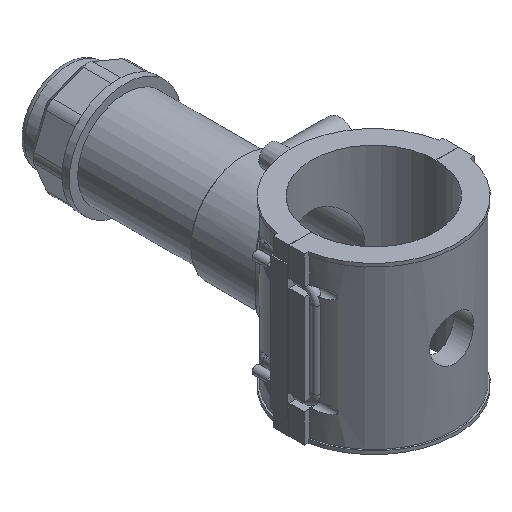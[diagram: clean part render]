
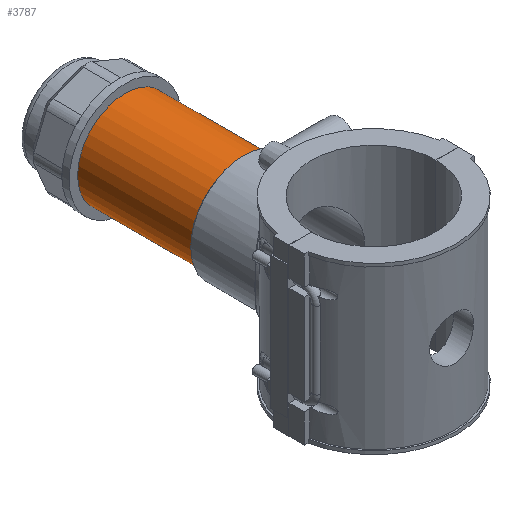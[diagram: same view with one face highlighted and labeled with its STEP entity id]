
A CAD part, isometric view. The second image highlights one B-rep face of the part: STEP entity #3787.
In plain terms, the highlighted cylindrical face has radius 33.928 mm (diameter 67.856 mm), a full revolution.
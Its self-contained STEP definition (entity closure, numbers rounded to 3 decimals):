
#53=FACE_BOUND('',#560,.T.);
#82=B_SPLINE_CURVE_WITH_KNOTS('',3,(#5587,#5588,#5589,#5590,#5591,#5592,
#5593,#5594,#5595,#5596),.UNSPECIFIED.,.F.,.F.,(4,2,2,2,4),(0.,0.402,
0.805,1.207,1.609),.UNSPECIFIED.);
#83=B_SPLINE_CURVE_WITH_KNOTS('',3,(#5597,#5598,#5599,#5600,#5601,#5602,
#5603,#5604,#5605,#5606,#5607,#5608,#5609,#5610,#5611,#5612,#5613,#5614,
#5615,#5616,#5617,#5618,#5619,#5620,#5621,#5622),.UNSPECIFIED.,.F.,.F.,
(4,2,2,2,2,2,2,2,2,2,2,2,4),(1.609,2.011,2.413,
2.815,3.218,3.62,4.022,4.424,
4.827,5.229,5.631,6.033,6.435),
 .UNSPECIFIED.);
#344=FACE_OUTER_BOUND('',#559,.T.);
#559=EDGE_LOOP('',(#2788,#2789,#2790,#2791,#2792,#2793));
#560=EDGE_LOOP('',(#2794,#2795));
#779=CIRCLE('',#4052,33.928);
#780=CIRCLE('',#4053,33.928);
#793=CIRCLE('',#4080,33.928);
#794=CIRCLE('',#4081,33.928);
#956=LINE('',#5872,#1297);
#1297=VECTOR('',#4630,33.928);
#1582=VERTEX_POINT('',#5584);
#1583=VERTEX_POINT('',#5586);
#1645=VERTEX_POINT('',#5813);
#1646=VERTEX_POINT('',#5814);
#1660=VERTEX_POINT('',#5868);
#1661=VERTEX_POINT('',#5869);
#1960=EDGE_CURVE('',#1583,#1582,#82,.T.);
#1961=EDGE_CURVE('',#1582,#1583,#83,.T.);
#2056=EDGE_CURVE('',#1645,#1646,#779,.T.);
#2057=EDGE_CURVE('',#1646,#1645,#780,.T.);
#2082=EDGE_CURVE('',#1660,#1661,#793,.T.);
#2083=EDGE_CURVE('',#1661,#1660,#794,.T.);
#2084=EDGE_CURVE('',#1661,#1646,#956,.T.);
#2788=ORIENTED_EDGE('',*,*,#2082,.F.);
#2789=ORIENTED_EDGE('',*,*,#2083,.F.);
#2790=ORIENTED_EDGE('',*,*,#2084,.T.);
#2791=ORIENTED_EDGE('',*,*,#2057,.T.);
#2792=ORIENTED_EDGE('',*,*,#2056,.T.);
#2793=ORIENTED_EDGE('',*,*,#2084,.F.);
#2794=ORIENTED_EDGE('',*,*,#1960,.T.);
#2795=ORIENTED_EDGE('',*,*,#1961,.T.);
#3691=CYLINDRICAL_SURFACE('',#4079,33.928);
#3787=ADVANCED_FACE('',(#344,#53),#3691,.T.);
#4052=AXIS2_PLACEMENT_3D('',#5815,#4558,#4559);
#4053=AXIS2_PLACEMENT_3D('',#5816,#4560,#4561);
#4079=AXIS2_PLACEMENT_3D('',#5867,#4624,#4625);
#4080=AXIS2_PLACEMENT_3D('',#5870,#4626,#4627);
#4081=AXIS2_PLACEMENT_3D('',#5871,#4628,#4629);
#4558=DIRECTION('center_axis',(0.,1.,0.));
#4559=DIRECTION('ref_axis',(1.,0.,0.));
#4560=DIRECTION('center_axis',(0.,1.,0.));
#4561=DIRECTION('ref_axis',(1.,0.,0.));
#4624=DIRECTION('center_axis',(0.,1.,0.));
#4625=DIRECTION('ref_axis',(0.,0.,1.));
#4626=DIRECTION('center_axis',(0.,1.,0.));
#4627=DIRECTION('ref_axis',(1.,0.,0.));
#4628=DIRECTION('center_axis',(0.,1.,0.));
#4629=DIRECTION('ref_axis',(1.,0.,0.));
#4630=DIRECTION('',(0.,-1.,0.));
#5584=CARTESIAN_POINT('',(33.928,98.774,0.));
#5586=CARTESIAN_POINT('',(32.229,109.374,-10.6));
#5587=CARTESIAN_POINT('Ctrl Pts',(32.229,109.374,-10.6));
#5588=CARTESIAN_POINT('Ctrl Pts',(32.229,108.033,-10.6));
#5589=CARTESIAN_POINT('Ctrl Pts',(32.322,106.609,-10.33));
#5590=CARTESIAN_POINT('Ctrl Pts',(32.649,104.001,-9.246));
#5591=CARTESIAN_POINT('Ctrl Pts',(32.877,102.815,-8.432));
#5592=CARTESIAN_POINT('Ctrl Pts',(33.301,100.943,-6.559));
#5593=CARTESIAN_POINT('Ctrl Pts',(33.525,100.128,-5.373));
#5594=CARTESIAN_POINT('Ctrl Pts',(33.84,99.044,-2.764));
#5595=CARTESIAN_POINT('Ctrl Pts',(33.928,98.774,-1.34));
#5596=CARTESIAN_POINT('Ctrl Pts',(33.928,98.774,0.));
#5597=CARTESIAN_POINT('Ctrl Pts',(33.928,98.774,0.));
#5598=CARTESIAN_POINT('Ctrl Pts',(33.928,98.774,1.34));
#5599=CARTESIAN_POINT('Ctrl Pts',(33.84,99.044,2.764));
#5600=CARTESIAN_POINT('Ctrl Pts',(33.525,100.128,5.373));
#5601=CARTESIAN_POINT('Ctrl Pts',(33.301,100.943,6.559));
#5602=CARTESIAN_POINT('Ctrl Pts',(32.877,102.815,8.432));
#5603=CARTESIAN_POINT('Ctrl Pts',(32.649,104.001,9.246));
#5604=CARTESIAN_POINT('Ctrl Pts',(32.322,106.609,10.33));
#5605=CARTESIAN_POINT('Ctrl Pts',(32.229,108.033,10.6));
#5606=CARTESIAN_POINT('Ctrl Pts',(32.229,110.715,10.6));
#5607=CARTESIAN_POINT('Ctrl Pts',(32.322,112.139,10.33));
#5608=CARTESIAN_POINT('Ctrl Pts',(32.649,114.747,9.246));
#5609=CARTESIAN_POINT('Ctrl Pts',(32.877,115.933,8.432));
#5610=CARTESIAN_POINT('Ctrl Pts',(33.301,117.805,6.559));
#5611=CARTESIAN_POINT('Ctrl Pts',(33.525,118.62,5.373));
#5612=CARTESIAN_POINT('Ctrl Pts',(33.84,119.704,2.764));
#5613=CARTESIAN_POINT('Ctrl Pts',(33.928,119.974,1.34));
#5614=CARTESIAN_POINT('Ctrl Pts',(33.928,119.974,-1.34));
#5615=CARTESIAN_POINT('Ctrl Pts',(33.84,119.704,-2.764));
#5616=CARTESIAN_POINT('Ctrl Pts',(33.525,118.62,-5.373));
#5617=CARTESIAN_POINT('Ctrl Pts',(33.301,117.805,-6.559));
#5618=CARTESIAN_POINT('Ctrl Pts',(32.877,115.933,-8.432));
#5619=CARTESIAN_POINT('Ctrl Pts',(32.649,114.747,-9.246));
#5620=CARTESIAN_POINT('Ctrl Pts',(32.322,112.139,-10.33));
#5621=CARTESIAN_POINT('Ctrl Pts',(32.229,110.715,-10.6));
#5622=CARTESIAN_POINT('Ctrl Pts',(32.229,109.374,-10.6));
#5813=CARTESIAN_POINT('',(0.,93.332,33.928));
#5814=CARTESIAN_POINT('',(0.,93.332,-33.928));
#5815=CARTESIAN_POINT('Origin',(0.,93.332,0.));
#5816=CARTESIAN_POINT('Origin',(0.,93.332,0.));
#5867=CARTESIAN_POINT('Origin',(0.,135.23,0.));
#5868=CARTESIAN_POINT('',(0.,177.129,33.928));
#5869=CARTESIAN_POINT('',(0.,177.129,-33.928));
#5870=CARTESIAN_POINT('Origin',(0.,177.129,0.));
#5871=CARTESIAN_POINT('Origin',(0.,177.129,0.));
#5872=CARTESIAN_POINT('',(0.,135.23,-33.928));
